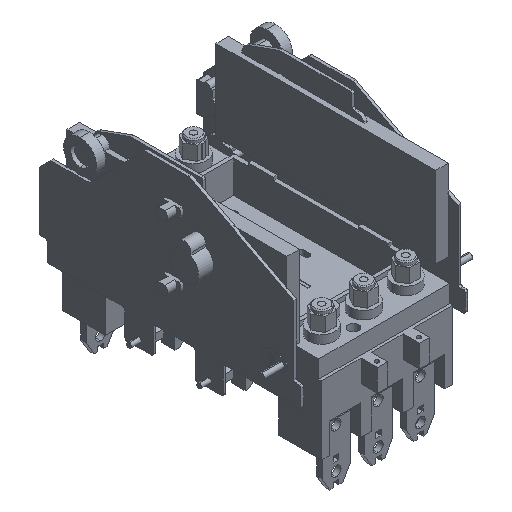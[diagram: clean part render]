
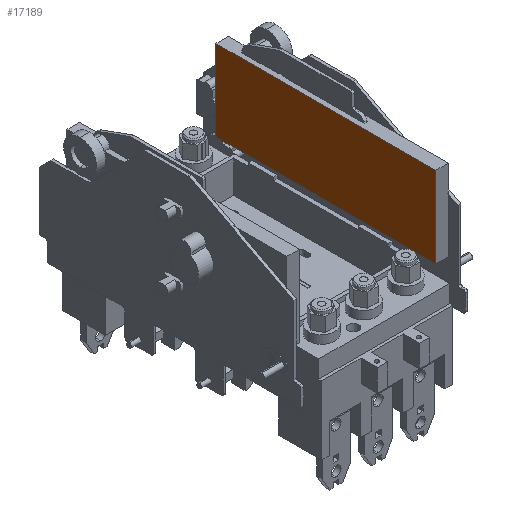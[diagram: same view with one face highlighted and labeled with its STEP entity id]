
A CAD part, isometric view. The second image highlights one B-rep face of the part: STEP entity #17189.
In plain terms, the highlighted planar face has unit normal (-1, 0, 0).
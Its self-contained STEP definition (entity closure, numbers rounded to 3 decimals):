
#747 = CARTESIAN_POINT ( 'NONE',  ( 73., 117.6, -0.483 ) ) ;
#1169 = DIRECTION ( 'NONE',  ( 0., 0., 1. ) ) ;
#2186 = EDGE_CURVE ( 'NONE', #21755, #9029, #16457, .T. ) ;
#3512 = DIRECTION ( 'NONE',  ( 0., 0., -1. ) ) ;
#3910 = ORIENTED_EDGE ( 'NONE', *, *, #4308, .F. ) ;
#4232 = LINE ( 'NONE', #25212, #19669 ) ;
#4308 = EDGE_CURVE ( 'NONE', #18035, #21755, #4232, .T. ) ;
#6631 = CARTESIAN_POINT ( 'NONE',  ( 73., 117.6, 86.117 ) ) ;
#6896 = EDGE_LOOP ( 'NONE', ( #21271, #10384, #3910, #7115 ) ) ;
#7115 = ORIENTED_EDGE ( 'NONE', *, *, #11237, .F. ) ;
#8391 = CARTESIAN_POINT ( 'NONE',  ( 73., 0., 0. ) ) ;
#9029 = VERTEX_POINT ( 'NONE', #14786 ) ;
#9092 = DIRECTION ( 'NONE',  ( 0., 1., 0. ) ) ;
#9445 = LINE ( 'NONE', #14883, #15700 ) ;
#10384 = ORIENTED_EDGE ( 'NONE', *, *, #2186, .F. ) ;
#10857 = DIRECTION ( 'NONE',  ( 1., 0., 0. ) ) ;
#11125 = DIRECTION ( 'NONE',  ( 0., 0., -1. ) ) ;
#11132 = VECTOR ( 'NONE', #15477, 1000. ) ;
#11237 = EDGE_CURVE ( 'NONE', #16659, #18035, #9445, .T. ) ;
#11939 = EDGE_CURVE ( 'NONE', #9029, #16659, #25483, .T. ) ;
#12575 = FACE_OUTER_BOUND ( 'NONE', #6896, .T. ) ;
#14786 = CARTESIAN_POINT ( 'NONE',  ( 73., -117.6, 86.117 ) ) ;
#14883 = CARTESIAN_POINT ( 'NONE',  ( 73., -117.6, -0.483 ) ) ;
#15477 = DIRECTION ( 'NONE',  ( 0., -1., 0. ) ) ;
#15700 = VECTOR ( 'NONE', #9092, 1000. ) ;
#16457 = LINE ( 'NONE', #19792, #11132 ) ;
#16659 = VERTEX_POINT ( 'NONE', #16682 ) ;
#16682 = CARTESIAN_POINT ( 'NONE',  ( 73., -117.6, -0.483 ) ) ;
#17189 = ADVANCED_FACE ( 'NONE', ( #12575 ), #18854, .F. ) ;
#17604 = CARTESIAN_POINT ( 'NONE',  ( 73., -117.6, 86.117 ) ) ;
#18035 = VERTEX_POINT ( 'NONE', #747 ) ;
#18854 = PLANE ( 'NONE',  #19289 ) ;
#19289 = AXIS2_PLACEMENT_3D ( 'NONE', #8391, #10857, #11125 ) ;
#19669 = VECTOR ( 'NONE', #1169, 1000. ) ;
#19792 = CARTESIAN_POINT ( 'NONE',  ( 73., 117.6, 86.117 ) ) ;
#20102 = VECTOR ( 'NONE', #3512, 1000. ) ;
#21271 = ORIENTED_EDGE ( 'NONE', *, *, #11939, .F. ) ;
#21755 = VERTEX_POINT ( 'NONE', #6631 ) ;
#25212 = CARTESIAN_POINT ( 'NONE',  ( 73., 117.6, -0.483 ) ) ;
#25483 = LINE ( 'NONE', #17604, #20102 ) ;
